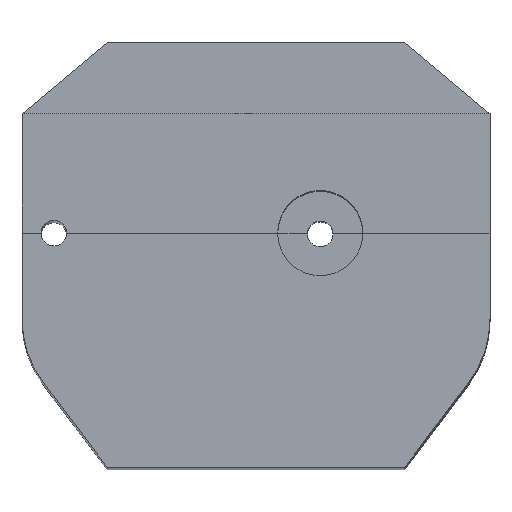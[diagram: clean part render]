
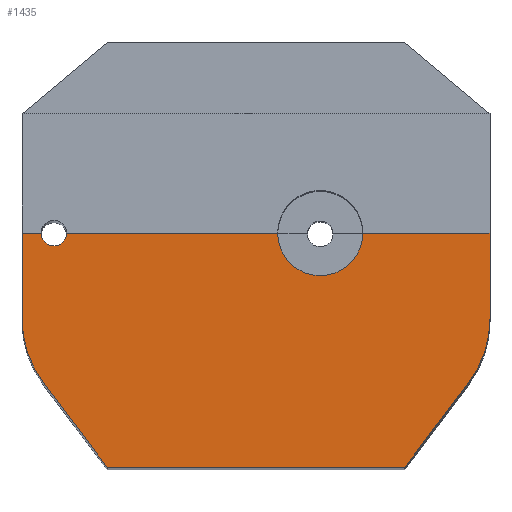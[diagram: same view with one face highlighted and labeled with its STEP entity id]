
A CAD part, top view. The second image highlights one B-rep face of the part: STEP entity #1435.
In plain terms, the highlighted planar face has unit normal (0, 0, 1).
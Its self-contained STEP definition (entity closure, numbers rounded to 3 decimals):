
#26=PLANE('',#1521);
#84=FACE_OUTER_BOUND('',#164,.T.);
#164=EDGE_LOOP('',(#989,#990,#991,#992,#993,#994,#995,#996,#997,#998,#999,
#1000));
#251=CIRCLE('',#1520,0.6);
#252=CIRCLE('',#1522,5.);
#253=CIRCLE('',#1523,5.);
#254=CIRCLE('',#1524,2.);
#298=LINE('',#2077,#465);
#299=LINE('',#2079,#466);
#300=LINE('',#2083,#467);
#301=LINE('',#2085,#468);
#302=LINE('',#2087,#469);
#303=LINE('',#2091,#470);
#304=LINE('',#2093,#471);
#305=LINE('',#2096,#472);
#465=VECTOR('',#1656,10.);
#466=VECTOR('',#1657,10.);
#467=VECTOR('',#1660,10.);
#468=VECTOR('',#1661,10.);
#469=VECTOR('',#1662,10.);
#470=VECTOR('',#1665,10.);
#471=VECTOR('',#1666,10.);
#472=VECTOR('',#1669,10.);
#631=VERTEX_POINT('',#2068);
#633=VERTEX_POINT('',#2072);
#634=VERTEX_POINT('',#2076);
#635=VERTEX_POINT('',#2078);
#636=VERTEX_POINT('',#2080);
#637=VERTEX_POINT('',#2082);
#638=VERTEX_POINT('',#2084);
#639=VERTEX_POINT('',#2086);
#640=VERTEX_POINT('',#2088);
#641=VERTEX_POINT('',#2090);
#642=VERTEX_POINT('',#2092);
#643=VERTEX_POINT('',#2094);
#775=EDGE_CURVE('',#631,#633,#251,.T.);
#776=EDGE_CURVE('',#634,#633,#298,.T.);
#777=EDGE_CURVE('',#635,#634,#299,.T.);
#778=EDGE_CURVE('',#636,#635,#252,.T.);
#779=EDGE_CURVE('',#637,#636,#300,.T.);
#780=EDGE_CURVE('',#637,#638,#301,.T.);
#781=EDGE_CURVE('',#638,#639,#302,.T.);
#782=EDGE_CURVE('',#640,#639,#253,.T.);
#783=EDGE_CURVE('',#640,#641,#303,.T.);
#784=EDGE_CURVE('',#642,#641,#304,.T.);
#785=EDGE_CURVE('',#642,#643,#254,.T.);
#786=EDGE_CURVE('',#631,#643,#305,.T.);
#989=ORIENTED_EDGE('',*,*,#775,.T.);
#990=ORIENTED_EDGE('',*,*,#776,.F.);
#991=ORIENTED_EDGE('',*,*,#777,.F.);
#992=ORIENTED_EDGE('',*,*,#778,.F.);
#993=ORIENTED_EDGE('',*,*,#779,.F.);
#994=ORIENTED_EDGE('',*,*,#780,.T.);
#995=ORIENTED_EDGE('',*,*,#781,.T.);
#996=ORIENTED_EDGE('',*,*,#782,.F.);
#997=ORIENTED_EDGE('',*,*,#783,.T.);
#998=ORIENTED_EDGE('',*,*,#784,.F.);
#999=ORIENTED_EDGE('',*,*,#785,.T.);
#1000=ORIENTED_EDGE('',*,*,#786,.F.);
#1435=ADVANCED_FACE('',(#84),#26,.T.);
#1520=AXIS2_PLACEMENT_3D('',#2074,#1652,#1653);
#1521=AXIS2_PLACEMENT_3D('',#2075,#1654,#1655);
#1522=AXIS2_PLACEMENT_3D('',#2081,#1658,#1659);
#1523=AXIS2_PLACEMENT_3D('',#2089,#1663,#1664);
#1524=AXIS2_PLACEMENT_3D('',#2095,#1667,#1668);
#1652=DIRECTION('center_axis',(0.,0.,-1.));
#1653=DIRECTION('ref_axis',(1.,0.,0.));
#1654=DIRECTION('center_axis',(0.,0.,1.));
#1655=DIRECTION('ref_axis',(1.,0.,0.));
#1656=DIRECTION('',(1.,0.,0.));
#1657=DIRECTION('',(0.,1.,0.));
#1658=DIRECTION('center_axis',(0.,0.,-1.));
#1659=DIRECTION('ref_axis',(-0.948,-0.317,0.));
#1660=DIRECTION('',(-0.602,0.799,0.));
#1661=DIRECTION('',(1.,0.,0.));
#1662=DIRECTION('',(0.602,0.799,0.));
#1663=DIRECTION('center_axis',(0.,0.,-1.));
#1664=DIRECTION('ref_axis',(0.948,-0.317,0.));
#1665=DIRECTION('',(0.,1.,0.));
#1666=DIRECTION('',(1.,0.,0.));
#1667=DIRECTION('center_axis',(0.,0.,-1.));
#1668=DIRECTION('ref_axis',(1.,0.,0.));
#1669=DIRECTION('',(1.,0.,0.));
#2068=CARTESIAN_POINT('',(-8.9,11.,0.));
#2072=CARTESIAN_POINT('',(-10.1,11.,0.));
#2074=CARTESIAN_POINT('Origin',(-9.5,11.,0.));
#2075=CARTESIAN_POINT('Origin',(0.,5.5,0.));
#2076=CARTESIAN_POINT('',(-11.,11.,0.));
#2077=CARTESIAN_POINT('',(-11.,11.,0.));
#2078=CARTESIAN_POINT('',(-11.,6.981,0.));
#2079=CARTESIAN_POINT('',(-11.,5.308,0.));
#2080=CARTESIAN_POINT('',(-9.993,3.972,0.));
#2081=CARTESIAN_POINT('Origin',(-6.,6.981,0.));
#2082=CARTESIAN_POINT('',(-7.,0.,0.));
#2083=CARTESIAN_POINT('',(-7.,0.,0.));
#2084=CARTESIAN_POINT('',(7.,0.,0.));
#2085=CARTESIAN_POINT('',(-7.,0.,0.));
#2086=CARTESIAN_POINT('',(9.993,3.972,0.));
#2087=CARTESIAN_POINT('',(7.,0.,0.));
#2088=CARTESIAN_POINT('',(11.,6.981,0.));
#2089=CARTESIAN_POINT('Origin',(6.,6.981,0.));
#2090=CARTESIAN_POINT('',(11.,11.,0.));
#2091=CARTESIAN_POINT('',(11.,5.308,0.));
#2092=CARTESIAN_POINT('',(5.021,11.,0.));
#2093=CARTESIAN_POINT('',(-11.,11.,0.));
#2094=CARTESIAN_POINT('',(1.021,11.,0.));
#2095=CARTESIAN_POINT('Origin',(3.021,11.,0.));
#2096=CARTESIAN_POINT('',(-11.,11.,0.));
